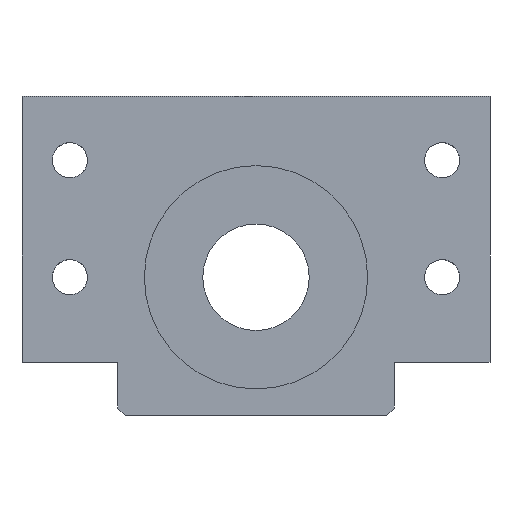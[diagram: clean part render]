
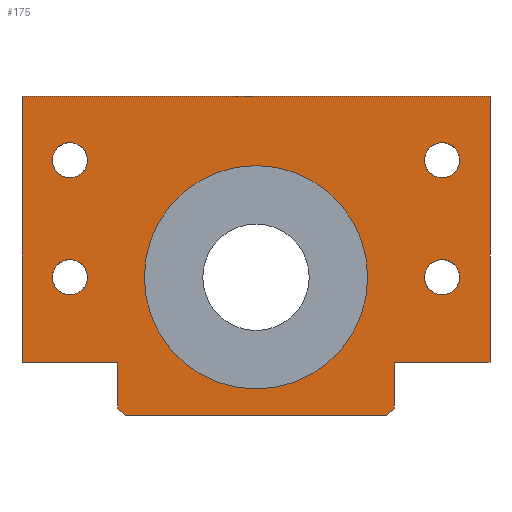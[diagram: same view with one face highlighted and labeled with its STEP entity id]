
A CAD part, left-side view. The second image highlights one B-rep face of the part: STEP entity #175.
In plain terms, the highlighted planar face has unit normal (-1, 0, 0).
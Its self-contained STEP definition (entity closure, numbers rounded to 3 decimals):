
#63=LINE('',#913,#93);
#64=LINE('',#917,#94);
#65=LINE('',#919,#95);
#66=LINE('',#921,#96);
#67=LINE('',#923,#97);
#68=LINE('',#925,#98);
#69=LINE('',#927,#99);
#70=LINE('',#929,#100);
#71=LINE('',#931,#101);
#72=LINE('',#933,#102);
#93=VECTOR('',#702,1.);
#94=VECTOR('',#707,1.);
#95=VECTOR('',#708,1.);
#96=VECTOR('',#709,1.);
#97=VECTOR('',#710,1.);
#98=VECTOR('',#711,1.);
#99=VECTOR('',#712,1.);
#100=VECTOR('',#713,1.);
#101=VECTOR('',#714,1.);
#102=VECTOR('',#715,1.);
#152=PLANE('',#626);
#175=ADVANCED_FACE('',(#237,#238,#239,#240,#241,#242),#152,.T.);
#237=FACE_BOUND('',#302,.T.);
#238=FACE_BOUND('',#303,.T.);
#239=FACE_BOUND('',#304,.T.);
#240=FACE_BOUND('',#305,.T.);
#241=FACE_BOUND('',#306,.T.);
#242=FACE_BOUND('',#307,.T.);
#302=EDGE_LOOP('',(#377,#378,#379,#380,#381,#382,#383,#384,#385,#386));
#303=EDGE_LOOP('',(#387));
#304=EDGE_LOOP('',(#388));
#305=EDGE_LOOP('',(#389));
#306=EDGE_LOOP('',(#390));
#307=EDGE_LOOP('',(#391));
#377=ORIENTED_EDGE('',*,*,#537,.T.);
#378=ORIENTED_EDGE('',*,*,#538,.T.);
#379=ORIENTED_EDGE('',*,*,#539,.T.);
#380=ORIENTED_EDGE('',*,*,#540,.T.);
#381=ORIENTED_EDGE('',*,*,#541,.T.);
#382=ORIENTED_EDGE('',*,*,#542,.T.);
#383=ORIENTED_EDGE('',*,*,#543,.T.);
#384=ORIENTED_EDGE('',*,*,#544,.T.);
#385=ORIENTED_EDGE('',*,*,#545,.T.);
#386=ORIENTED_EDGE('',*,*,#535,.T.);
#387=ORIENTED_EDGE('',*,*,#527,.F.);
#388=ORIENTED_EDGE('',*,*,#528,.F.);
#389=ORIENTED_EDGE('',*,*,#546,.F.);
#390=ORIENTED_EDGE('',*,*,#547,.F.);
#391=ORIENTED_EDGE('',*,*,#548,.F.);
#477=VERTEX_POINT('',#892);
#478=VERTEX_POINT('',#895);
#483=VERTEX_POINT('',#908);
#485=VERTEX_POINT('',#912);
#487=VERTEX_POINT('',#918);
#488=VERTEX_POINT('',#920);
#489=VERTEX_POINT('',#922);
#490=VERTEX_POINT('',#924);
#491=VERTEX_POINT('',#926);
#492=VERTEX_POINT('',#928);
#493=VERTEX_POINT('',#930);
#494=VERTEX_POINT('',#932);
#495=VERTEX_POINT('',#935);
#496=VERTEX_POINT('',#937);
#497=VERTEX_POINT('',#939);
#527=EDGE_CURVE('GENERATED CIRCLE',#477,#477,#583,.T.);
#528=EDGE_CURVE('GENERATED CIRCLE',#478,#478,#584,.T.);
#535=EDGE_CURVE('LINE',#483,#485,#63,.T.);
#537=EDGE_CURVE('LINE',#485,#487,#64,.T.);
#538=EDGE_CURVE('LINE',#487,#488,#65,.T.);
#539=EDGE_CURVE('LINE',#488,#489,#66,.T.);
#540=EDGE_CURVE('LINE',#489,#490,#67,.T.);
#541=EDGE_CURVE('LINE',#490,#491,#68,.T.);
#542=EDGE_CURVE('LINE',#491,#492,#69,.T.);
#543=EDGE_CURVE('LINE',#492,#493,#70,.T.);
#544=EDGE_CURVE('LINE',#493,#494,#71,.T.);
#545=EDGE_CURVE('LINE',#494,#483,#72,.T.);
#546=EDGE_CURVE('GENERATED CIRCLE',#495,#495,#589,.T.);
#547=EDGE_CURVE('GENERATED CIRCLE',#496,#496,#590,.T.);
#548=EDGE_CURVE('GENERATED CIRCLE',#497,#497,#591,.T.);
#583=CIRCLE('',#611,3.3);
#584=CIRCLE('',#613,3.3);
#589=CIRCLE('',#623,3.3);
#590=CIRCLE('',#624,3.3);
#591=CIRCLE('',#625,21.);
#611=AXIS2_PLACEMENT_3D('',#891,#679,#680);
#613=AXIS2_PLACEMENT_3D('',#894,#683,#684);
#623=AXIS2_PLACEMENT_3D('',#934,#716,#717);
#624=AXIS2_PLACEMENT_3D('',#936,#718,#719);
#625=AXIS2_PLACEMENT_3D('',#938,#720,#721);
#626=AXIS2_PLACEMENT_3D('',#940,#722,#723);
#679=DIRECTION('',(-1.,0.,0.));
#680=DIRECTION('',(0.,0.,1.));
#683=DIRECTION('',(-1.,0.,0.));
#684=DIRECTION('',(0.,0.,1.));
#702=DIRECTION('',(0.,1.,0.));
#707=DIRECTION('',(0.,0.,-1.));
#708=DIRECTION('',(0.,-1.,0.));
#709=DIRECTION('',(0.,0.,-1.));
#710=DIRECTION('',(0.,-0.707,-0.707));
#711=DIRECTION('',(0.,-1.,0.));
#712=DIRECTION('',(0.,-0.707,0.707));
#713=DIRECTION('',(0.,0.,1.));
#714=DIRECTION('',(0.,-1.,0.));
#715=DIRECTION('',(0.,0.,1.));
#716=DIRECTION('',(-1.,0.,0.));
#717=DIRECTION('',(0.,0.,1.));
#718=DIRECTION('',(-1.,0.,0.));
#719=DIRECTION('',(0.,0.,1.));
#720=DIRECTION('',(-1.,0.,0.));
#721=DIRECTION('',(0.,0.,1.));
#722=DIRECTION('',(-1.,0.,0.));
#723=DIRECTION('',(0.,-1.,0.));
#891=CARTESIAN_POINT('',(7.,35.,-12.));
#892=CARTESIAN_POINT('',(7.,35.,-8.7));
#894=CARTESIAN_POINT('',(7.,35.,-34.));
#895=CARTESIAN_POINT('',(7.,35.,-30.7));
#908=CARTESIAN_POINT('',(7.,-44.,0.));
#912=CARTESIAN_POINT('',(7.,44.,0.));
#913=CARTESIAN_POINT('',(7.,0.,0.));
#917=CARTESIAN_POINT('',(7.,44.,-25.));
#918=CARTESIAN_POINT('',(7.,44.,-50.));
#919=CARTESIAN_POINT('',(7.,35.,-50.));
#920=CARTESIAN_POINT('',(7.,26.,-50.));
#921=CARTESIAN_POINT('',(7.,26.,-54.293));
#922=CARTESIAN_POINT('',(7.,26.,-58.586));
#923=CARTESIAN_POINT('',(7.,25.293,-59.293));
#924=CARTESIAN_POINT('',(7.,24.586,-60.));
#925=CARTESIAN_POINT('',(7.,0.,-60.));
#926=CARTESIAN_POINT('',(7.,-24.586,-60.));
#927=CARTESIAN_POINT('',(7.,-25.293,-59.293));
#928=CARTESIAN_POINT('',(7.,-26.,-58.586));
#929=CARTESIAN_POINT('',(7.,-26.,-54.293));
#930=CARTESIAN_POINT('',(7.,-26.,-50.));
#931=CARTESIAN_POINT('',(7.,-35.,-50.));
#932=CARTESIAN_POINT('',(7.,-44.,-50.));
#933=CARTESIAN_POINT('',(7.,-44.,-25.));
#934=CARTESIAN_POINT('',(7.,-35.,-12.));
#935=CARTESIAN_POINT('',(7.,-35.,-8.7));
#936=CARTESIAN_POINT('',(7.,-35.,-34.));
#937=CARTESIAN_POINT('',(7.,-35.,-30.7));
#938=CARTESIAN_POINT('',(7.,0.,-34.));
#939=CARTESIAN_POINT('',(7.,0.,-13.));
#940=CARTESIAN_POINT('',(7.,0.,0.));
